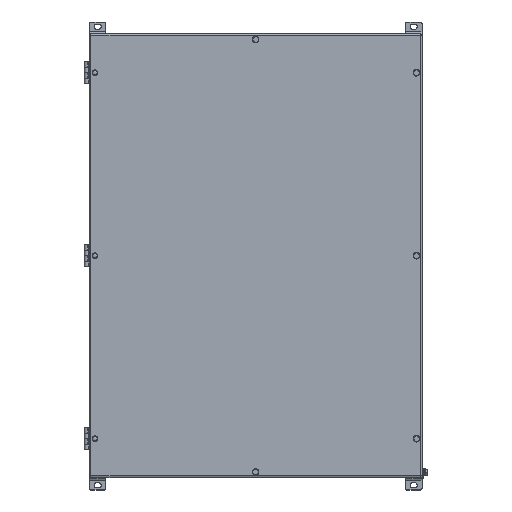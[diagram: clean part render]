
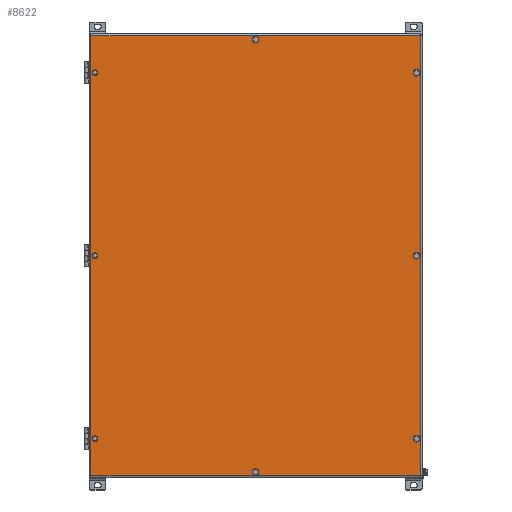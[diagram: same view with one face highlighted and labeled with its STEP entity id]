
A CAD part, top view. The second image highlights one B-rep face of the part: STEP entity #8622.
In plain terms, the highlighted planar face has unit normal (0, 0, 1).
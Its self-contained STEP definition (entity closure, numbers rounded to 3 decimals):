
#393 = VERTEX_POINT ( 'NONE', #35441 ) ;
#663 = ORIENTED_EDGE ( 'NONE', *, *, #46548, .T. ) ;
#828 = EDGE_LOOP ( 'NONE', ( #25315 ) ) ;
#940 = DIRECTION ( 'NONE',  ( 0., 0., 1. ) ) ;
#2064 = EDGE_CURVE ( 'NONE', #393, #393, #49026, .T. ) ;
#3446 = FACE_BOUND ( 'NONE', #40732, .T. ) ;
#4351 = CIRCLE ( 'NONE', #66888, 5. ) ;
#5143 = FACE_BOUND ( 'NONE', #64374, .T. ) ;
#5414 = EDGE_LOOP ( 'NONE', ( #10114 ) ) ;
#5435 = ORIENTED_EDGE ( 'NONE', *, *, #61853, .T. ) ;
#6802 = CARTESIAN_POINT ( 'NONE',  ( 290., 0., 298.5 ) ) ;
#7800 = VERTEX_POINT ( 'NONE', #17631 ) ;
#8090 = DIRECTION ( 'NONE',  ( -1., 0., 0. ) ) ;
#8502 = CARTESIAN_POINT ( 'NONE',  ( -294.619, 328.085, 298.5 ) ) ;
#8622 = ADVANCED_FACE ( 'NONE', ( #19383, #31930, #5143, #45833, #59614, #17744, #3446, #57990, #44224 ), #26371, .T. ) ;
#8766 = CIRCLE ( 'NONE', #56723, 6. ) ;
#9188 = CARTESIAN_POINT ( 'NONE',  ( 6., 390., 298.5 ) ) ;
#9763 = DIRECTION ( 'NONE',  ( 0., 0., 1. ) ) ;
#10114 = ORIENTED_EDGE ( 'NONE', *, *, #65943, .F. ) ;
#11052 = CARTESIAN_POINT ( 'NONE',  ( 296., 330., 298.5 ) ) ;
#11267 = CARTESIAN_POINT ( 'NONE',  ( -290., 330., 298.5 ) ) ;
#12141 = LINE ( 'NONE', #44342, #52607 ) ;
#12186 = DIRECTION ( 'NONE',  ( 1., 0., 0. ) ) ;
#13379 = CARTESIAN_POINT ( 'NONE',  ( -290., -330., 298.5 ) ) ;
#13723 = CARTESIAN_POINT ( 'NONE',  ( -297., -400., 298.5 ) ) ;
#13745 = VERTEX_POINT ( 'NONE', #55399 ) ;
#15140 = CARTESIAN_POINT ( 'NONE',  ( 0., 390., 298.5 ) ) ;
#16270 = VERTEX_POINT ( 'NONE', #8502 ) ;
#16697 = DIRECTION ( 'NONE',  ( -0.924, -0.383, 0. ) ) ;
#17070 = VERTEX_POINT ( 'NONE', #9188 ) ;
#17375 = CARTESIAN_POINT ( 'NONE',  ( 297., -397., 298.5 ) ) ;
#17631 = CARTESIAN_POINT ( 'NONE',  ( 297., 397., 298.5 ) ) ;
#17744 = FACE_BOUND ( 'NONE', #41848, .T. ) ;
#18499 = VERTEX_POINT ( 'NONE', #38825 ) ;
#18746 = DIRECTION ( 'NONE',  ( -0.778, -0.629, 0. ) ) ;
#18967 = ORIENTED_EDGE ( 'NONE', *, *, #47352, .F. ) ;
#19383 = FACE_BOUND ( 'NONE', #5414, .T. ) ;
#20478 = DIRECTION ( 'NONE',  ( 1., 0., 0. ) ) ;
#20740 = VERTEX_POINT ( 'NONE', #64628 ) ;
#20984 = CARTESIAN_POINT ( 'NONE',  ( 0., 0., 298.5 ) ) ;
#22227 = VECTOR ( 'NONE', #8090, 1000. ) ;
#22377 = DIRECTION ( 'NONE',  ( 0., 0., -1. ) ) ;
#22566 = AXIS2_PLACEMENT_3D ( 'NONE', #41620, #9763, #46834 ) ;
#23101 = VERTEX_POINT ( 'NONE', #47344 ) ;
#24370 = AXIS2_PLACEMENT_3D ( 'NONE', #28504, #64994, #33855 ) ;
#25162 = VECTOR ( 'NONE', #45448, 1000. ) ;
#25260 = EDGE_CURVE ( 'NONE', #59759, #35781, #12141, .T. ) ;
#25298 = LINE ( 'NONE', #43315, #54854 ) ;
#25315 = ORIENTED_EDGE ( 'NONE', *, *, #2064, .F. ) ;
#25676 = VERTEX_POINT ( 'NONE', #11052 ) ;
#26371 = PLANE ( 'NONE',  #64397 ) ;
#26876 = LINE ( 'NONE', #13723, #25162 ) ;
#27046 = EDGE_CURVE ( 'NONE', #13745, #13745, #4351, .T. ) ;
#28281 = AXIS2_PLACEMENT_3D ( 'NONE', #15140, #52005, #20478 ) ;
#28504 = CARTESIAN_POINT ( 'NONE',  ( 0., -390., 298.5 ) ) ;
#30116 = EDGE_CURVE ( 'NONE', #16270, #16270, #58540, .T. ) ;
#30898 = CARTESIAN_POINT ( 'NONE',  ( -294.257, -2.623, 298.5 ) ) ;
#31930 = FACE_BOUND ( 'NONE', #38483, .T. ) ;
#32864 = EDGE_CURVE ( 'NONE', #17070, #17070, #62951, .T. ) ;
#32996 = CARTESIAN_POINT ( 'NONE',  ( 290., -330., 298.5 ) ) ;
#33855 = DIRECTION ( 'NONE',  ( 1., 0., 0. ) ) ;
#34954 = ORIENTED_EDGE ( 'NONE', *, *, #49928, .T. ) ;
#35441 = CARTESIAN_POINT ( 'NONE',  ( 296., -330., 298.5 ) ) ;
#35781 = VERTEX_POINT ( 'NONE', #17375 ) ;
#36819 = DIRECTION ( 'NONE',  ( 0., 0., 1. ) ) ;
#38104 = VERTEX_POINT ( 'NONE', #30898 ) ;
#38277 = DIRECTION ( 'NONE',  ( 1., 0., 0. ) ) ;
#38483 = EDGE_LOOP ( 'NONE', ( #56459 ) ) ;
#38825 = CARTESIAN_POINT ( 'NONE',  ( -297., 397., 298.5 ) ) ;
#39984 = CARTESIAN_POINT ( 'NONE',  ( -300., 397., 298.5 ) ) ;
#40092 = AXIS2_PLACEMENT_3D ( 'NONE', #53855, #22377, #59036 ) ;
#40243 = ORIENTED_EDGE ( 'NONE', *, *, #25260, .T. ) ;
#40732 = EDGE_LOOP ( 'NONE', ( #62639 ) ) ;
#41620 = CARTESIAN_POINT ( 'NONE',  ( 290., 330., 298.5 ) ) ;
#41802 = EDGE_CURVE ( 'NONE', #25676, #25676, #47277, .T. ) ;
#41848 = EDGE_LOOP ( 'NONE', ( #63003 ) ) ;
#43315 = CARTESIAN_POINT ( 'NONE',  ( 297., 400., 298.5 ) ) ;
#44004 = DIRECTION ( 'NONE',  ( 0., 0., 1. ) ) ;
#44224 = FACE_BOUND ( 'NONE', #51990, .T. ) ;
#44342 = CARTESIAN_POINT ( 'NONE',  ( 300., -397., 298.5 ) ) ;
#45448 = DIRECTION ( 'NONE',  ( 0., -1., 0. ) ) ;
#45833 = FACE_OUTER_BOUND ( 'NONE', #57588, .T. ) ;
#46548 = EDGE_CURVE ( 'NONE', #7800, #18499, #46946, .T. ) ;
#46834 = DIRECTION ( 'NONE',  ( 1., 0., 0. ) ) ;
#46946 = LINE ( 'NONE', #39984, #22227 ) ;
#47277 = CIRCLE ( 'NONE', #22566, 6. ) ;
#47344 = CARTESIAN_POINT ( 'NONE',  ( 6., -390., 298.5 ) ) ;
#47352 = EDGE_CURVE ( 'NONE', #20740, #20740, #8766, .T. ) ;
#47489 = AXIS2_PLACEMENT_3D ( 'NONE', #32996, #940, #38277 ) ;
#48305 = DIRECTION ( 'NONE',  ( 0., 0., -1. ) ) ;
#48504 = DIRECTION ( 'NONE',  ( 0., 1., 0. ) ) ;
#49026 = CIRCLE ( 'NONE', #47489, 6. ) ;
#49031 = EDGE_CURVE ( 'NONE', #35781, #7800, #25298, .T. ) ;
#49583 = CIRCLE ( 'NONE', #40092, 5. ) ;
#49928 = EDGE_CURVE ( 'NONE', #18499, #59759, #26876, .T. ) ;
#50295 = DIRECTION ( 'NONE',  ( 0., 0., -1. ) ) ;
#50493 = CARTESIAN_POINT ( 'NONE',  ( -297., -397., 298.5 ) ) ;
#51990 = EDGE_LOOP ( 'NONE', ( #66541 ) ) ;
#52005 = DIRECTION ( 'NONE',  ( 0., 0., 1. ) ) ;
#52607 = VECTOR ( 'NONE', #59948, 1000. ) ;
#52967 = EDGE_LOOP ( 'NONE', ( #18967 ) ) ;
#53825 = CIRCLE ( 'NONE', #24370, 6. ) ;
#53855 = CARTESIAN_POINT ( 'NONE',  ( -290., 0., 298.5 ) ) ;
#54854 = VECTOR ( 'NONE', #48504, 1000. ) ;
#55399 = CARTESIAN_POINT ( 'NONE',  ( -293.888, -333.144, 298.5 ) ) ;
#55727 = AXIS2_PLACEMENT_3D ( 'NONE', #11267, #48305, #16697 ) ;
#56459 = ORIENTED_EDGE ( 'NONE', *, *, #41802, .F. ) ;
#56723 = AXIS2_PLACEMENT_3D ( 'NONE', #6802, #44004, #12186 ) ;
#57588 = EDGE_LOOP ( 'NONE', ( #34954, #40243, #59659, #663 ) ) ;
#57990 = FACE_BOUND ( 'NONE', #828, .T. ) ;
#58540 = CIRCLE ( 'NONE', #55727, 5. ) ;
#59036 = DIRECTION ( 'NONE',  ( -0.851, -0.525, 0. ) ) ;
#59614 = FACE_BOUND ( 'NONE', #52967, .T. ) ;
#59659 = ORIENTED_EDGE ( 'NONE', *, *, #49031, .T. ) ;
#59759 = VERTEX_POINT ( 'NONE', #50493 ) ;
#59948 = DIRECTION ( 'NONE',  ( 1., 0., 0. ) ) ;
#61853 = EDGE_CURVE ( 'NONE', #38104, #38104, #49583, .T. ) ;
#62639 = ORIENTED_EDGE ( 'NONE', *, *, #32864, .F. ) ;
#62944 = DIRECTION ( 'NONE',  ( 1., 0., 0. ) ) ;
#62951 = CIRCLE ( 'NONE', #28281, 6. ) ;
#63003 = ORIENTED_EDGE ( 'NONE', *, *, #27046, .T. ) ;
#64374 = EDGE_LOOP ( 'NONE', ( #5435 ) ) ;
#64397 = AXIS2_PLACEMENT_3D ( 'NONE', #20984, #36819, #62944 ) ;
#64628 = CARTESIAN_POINT ( 'NONE',  ( 296., 0., 298.5 ) ) ;
#64994 = DIRECTION ( 'NONE',  ( 0., 0., 1. ) ) ;
#65943 = EDGE_CURVE ( 'NONE', #23101, #23101, #53825, .T. ) ;
#66541 = ORIENTED_EDGE ( 'NONE', *, *, #30116, .T. ) ;
#66888 = AXIS2_PLACEMENT_3D ( 'NONE', #13379, #50295, #18746 ) ;
